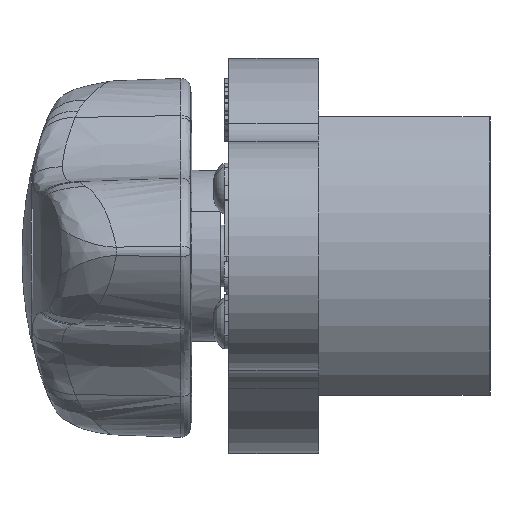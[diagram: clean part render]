
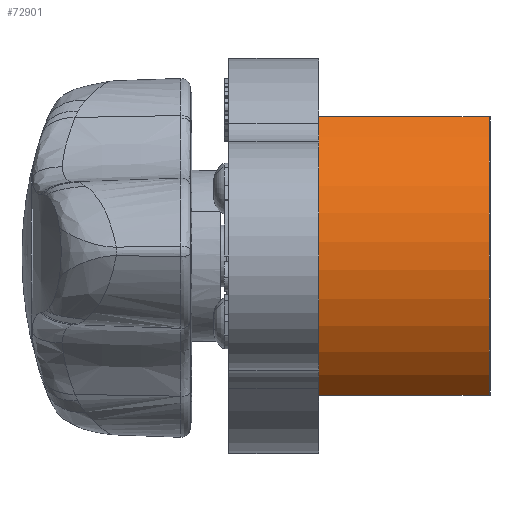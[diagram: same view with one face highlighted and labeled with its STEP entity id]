
A CAD part, left-side view. The second image highlights one B-rep face of the part: STEP entity #72901.
In plain terms, the highlighted cylindrical face has radius 20 mm (diameter 40 mm), a partial arc.
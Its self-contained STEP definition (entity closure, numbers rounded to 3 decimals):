
#94 = VERTEX_POINT ( 'NONE', #39095 ) ;
#9978 = CARTESIAN_POINT ( 'NONE',  ( -12.639, 0.1, 15.5 ) ) ;
#13075 = AXIS2_PLACEMENT_3D ( 'NONE', #25363, #20662, #53926 ) ;
#14250 = AXIS2_PLACEMENT_3D ( 'NONE', #72348, #26826, #66073 ) ;
#14558 = CARTESIAN_POINT ( 'NONE',  ( -12.639, 21.9, -15.5 ) ) ;
#16308 = AXIS2_PLACEMENT_3D ( 'NONE', #66535, #61576, #72307 ) ;
#16504 = VERTEX_POINT ( 'NONE', #14558 ) ;
#18224 = ORIENTED_EDGE ( 'NONE', *, *, #54925, .T. ) ;
#19145 = ORIENTED_EDGE ( 'NONE', *, *, #27208, .T. ) ;
#20662 = DIRECTION ( 'NONE',  ( 0., -1., 0. ) ) ;
#24284 = VECTOR ( 'NONE', #40610, 1000. ) ;
#25363 = CARTESIAN_POINT ( 'NONE',  ( 0., 21.9, 0. ) ) ;
#26826 = DIRECTION ( 'NONE',  ( 0., 1., 0. ) ) ;
#27208 = EDGE_CURVE ( 'NONE', #55433, #71175, #27868, .T. ) ;
#27792 = DIRECTION ( 'NONE',  ( 0., 1., 0. ) ) ;
#27868 = LINE ( 'NONE', #51560, #24284 ) ;
#28008 = FACE_OUTER_BOUND ( 'NONE', #63926, .T. ) ;
#34588 = CIRCLE ( 'NONE', #14250, 20. ) ;
#39095 = CARTESIAN_POINT ( 'NONE',  ( -12.639, 0.1, -15.5 ) ) ;
#40610 = DIRECTION ( 'NONE',  ( 0., 1., 0. ) ) ;
#42976 = CYLINDRICAL_SURFACE ( 'NONE', #16308, 20. ) ;
#43332 = EDGE_CURVE ( 'NONE', #71175, #16504, #64482, .T. ) ;
#48801 = LINE ( 'NONE', #56362, #52352 ) ;
#51560 = CARTESIAN_POINT ( 'NONE',  ( -12.639, 0., 15.5 ) ) ;
#52352 = VECTOR ( 'NONE', #27792, 1000. ) ;
#53926 = DIRECTION ( 'NONE',  ( 0., 0., -1. ) ) ;
#54925 = EDGE_CURVE ( 'NONE', #94, #55433, #34588, .T. ) ;
#55360 = EDGE_CURVE ( 'NONE', #94, #16504, #48801, .T. ) ;
#55433 = VERTEX_POINT ( 'NONE', #9978 ) ;
#56362 = CARTESIAN_POINT ( 'NONE',  ( -12.639, 0., -15.5 ) ) ;
#61576 = DIRECTION ( 'NONE',  ( 0., -1., 0. ) ) ;
#63926 = EDGE_LOOP ( 'NONE', ( #72391, #18224, #19145, #73698 ) ) ;
#64482 = CIRCLE ( 'NONE', #13075, 20. ) ;
#66073 = DIRECTION ( 'NONE',  ( 0., 0., -1. ) ) ;
#66535 = CARTESIAN_POINT ( 'NONE',  ( 0., 22., 0. ) ) ;
#71175 = VERTEX_POINT ( 'NONE', #71453 ) ;
#71453 = CARTESIAN_POINT ( 'NONE',  ( -12.639, 21.9, 15.5 ) ) ;
#72307 = DIRECTION ( 'NONE',  ( 0., 0., 1. ) ) ;
#72348 = CARTESIAN_POINT ( 'NONE',  ( 0., 0.1, 0. ) ) ;
#72391 = ORIENTED_EDGE ( 'NONE', *, *, #55360, .F. ) ;
#72901 = ADVANCED_FACE ( 'NONE', ( #28008 ), #42976, .T. ) ;
#73698 = ORIENTED_EDGE ( 'NONE', *, *, #43332, .T. ) ;
